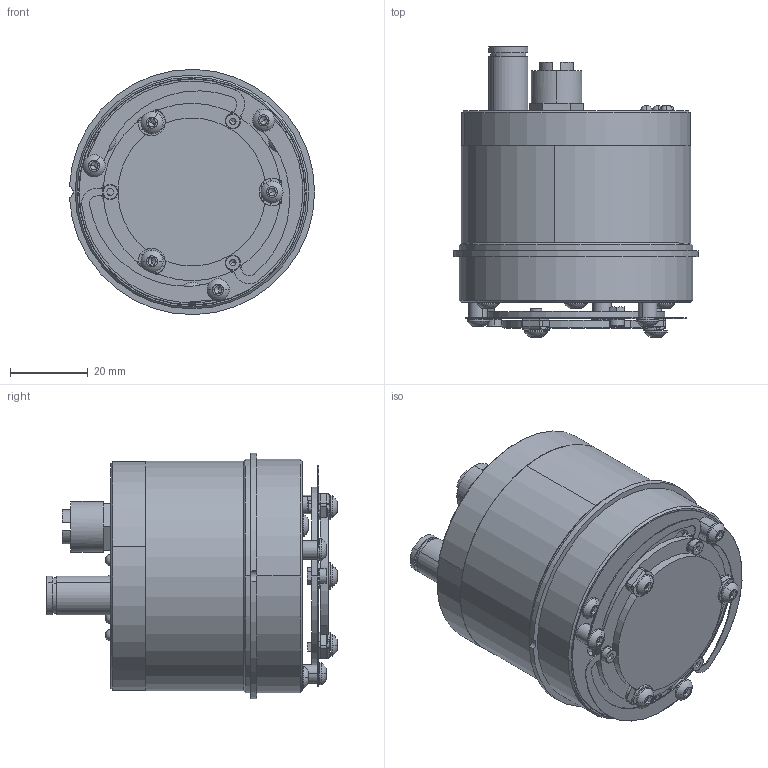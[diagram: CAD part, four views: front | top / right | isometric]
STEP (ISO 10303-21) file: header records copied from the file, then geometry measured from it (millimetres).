
FILE_DESCRIPTION (( 'STEP AP214' ), '1' );
FILE_NAME ('Model3D_CYA-A38-Ai1.STEP', '2010-09-16T01:03:07', ( '' ), ( '' ), 'SwSTEP 2.0', 'SolidWorks 2011', '' );
FILE_SCHEMA (( 'AUTOMOTIVE_DESIGN' ));
Length unit declared in the file: millimetre
Products named in the file (1): Model3D_CYA-A38-Ai1
Bounding box: 62.97 x 74.52 x 62.98 mm (x, y, z)
Surface area: 30076.1 mm2 (no closed solid volume)
Topology: 0 solids, 50 shells, 513 faces, 1694 edges, 1158 vertices
Faces by surface type: plane 247, cylinder 183, cone 41, sphere 26, torus 16
Entity records: 24274 total; most frequent: CARTESIAN_POINT 3745, DIRECTION 3351, ORIENTED_EDGE 2683, EDGE_CURVE 1664, AXIS2_PLACEMENT_3D 1290, VERTEX_POINT 1158, CIRCLE 776, VECTOR 771
